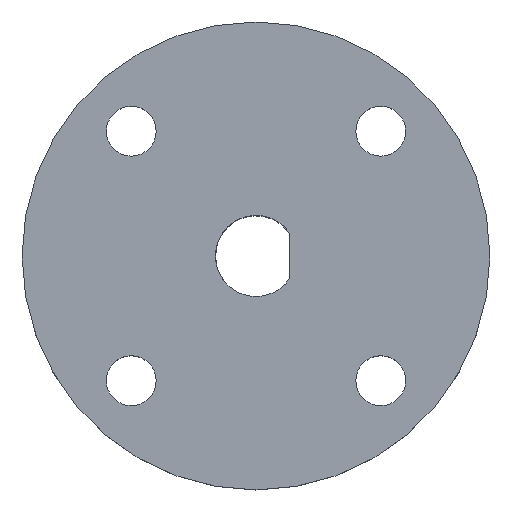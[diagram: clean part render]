
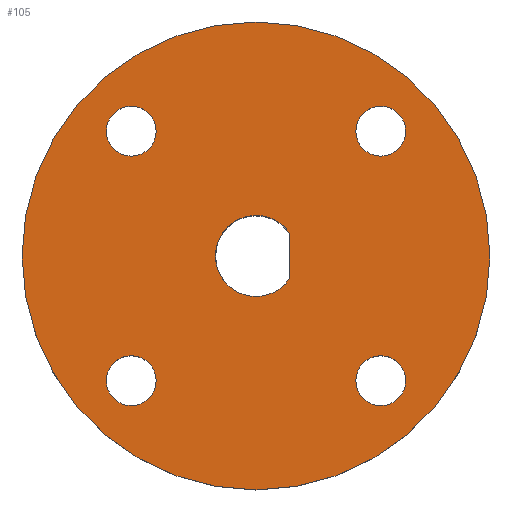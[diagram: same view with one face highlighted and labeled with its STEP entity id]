
A CAD part, top view. The second image highlights one B-rep face of the part: STEP entity #105.
In plain terms, the highlighted planar face has unit normal (0, 0, 1).
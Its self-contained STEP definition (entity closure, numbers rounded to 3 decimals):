
#21 = EDGE_CURVE('',#22,#22,#24,.T.);
#22 = VERTEX_POINT('',#23);
#23 = CARTESIAN_POINT('',(15.,0.,19.));
#24 = SURFACE_CURVE('',#25,(#30,#42),.PCURVE_S1.);
#25 = CIRCLE('',#26,15.);
#26 = AXIS2_PLACEMENT_3D('',#27,#28,#29);
#27 = CARTESIAN_POINT('',(0.,0.,19.));
#28 = DIRECTION('',(0.,0.,1.));
#29 = DIRECTION('',(1.,0.,0.));
#30 = PCURVE('',#31,#36);
#31 = CYLINDRICAL_SURFACE('',#32,15.);
#32 = AXIS2_PLACEMENT_3D('',#33,#34,#35);
#33 = CARTESIAN_POINT('',(0.,0.,15.));
#34 = DIRECTION('',(0.,0.,1.));
#35 = DIRECTION('',(1.,0.,0.));
#36 = DEFINITIONAL_REPRESENTATION('',(#37),#41);
#37 = LINE('',#38,#39);
#38 = CARTESIAN_POINT('',(0.,4.));
#39 = VECTOR('',#40,1.);
#40 = DIRECTION('',(1.,0.));
#41 = ( GEOMETRIC_REPRESENTATION_CONTEXT(2) 
PARAMETRIC_REPRESENTATION_CONTEXT() REPRESENTATION_CONTEXT('2D SPACE',''
  ) );
#42 = PCURVE('',#43,#48);
#43 = PLANE('',#44);
#44 = AXIS2_PLACEMENT_3D('',#45,#46,#47);
#45 = CARTESIAN_POINT('',(0.,0.,19.));
#46 = DIRECTION('',(0.,0.,1.));
#47 = DIRECTION('',(1.,0.,0.));
#48 = DEFINITIONAL_REPRESENTATION('',(#49),#53);
#49 = CIRCLE('',#50,15.);
#50 = AXIS2_PLACEMENT_2D('',#51,#52);
#51 = CARTESIAN_POINT('',(0.,0.));
#52 = DIRECTION('',(1.,0.));
#53 = ( GEOMETRIC_REPRESENTATION_CONTEXT(2) 
PARAMETRIC_REPRESENTATION_CONTEXT() REPRESENTATION_CONTEXT('2D SPACE',''
  ) );
#105 = ADVANCED_FACE('',(#106,#109,#140,#171,#228,#259),#43,.T.);
#106 = FACE_BOUND('',#107,.T.);
#107 = EDGE_LOOP('',(#108));
#108 = ORIENTED_EDGE('',*,*,#21,.T.);
#109 = FACE_BOUND('',#110,.T.);
#110 = EDGE_LOOP('',(#111));
#111 = ORIENTED_EDGE('',*,*,#112,.F.);
#112 = EDGE_CURVE('',#113,#113,#115,.T.);
#113 = VERTEX_POINT('',#114);
#114 = CARTESIAN_POINT('',(-6.4,-8.,19.));
#115 = SURFACE_CURVE('',#116,(#121,#128),.PCURVE_S1.);
#116 = CIRCLE('',#117,1.6);
#117 = AXIS2_PLACEMENT_3D('',#118,#119,#120);
#118 = CARTESIAN_POINT('',(-8.,-8.,19.));
#119 = DIRECTION('',(0.,0.,1.));
#120 = DIRECTION('',(1.,0.,-0.));
#121 = PCURVE('',#43,#122);
#122 = DEFINITIONAL_REPRESENTATION('',(#123),#127);
#123 = CIRCLE('',#124,1.6);
#124 = AXIS2_PLACEMENT_2D('',#125,#126);
#125 = CARTESIAN_POINT('',(-8.,-8.));
#126 = DIRECTION('',(1.,0.));
#127 = ( GEOMETRIC_REPRESENTATION_CONTEXT(2) 
PARAMETRIC_REPRESENTATION_CONTEXT() REPRESENTATION_CONTEXT('2D SPACE',''
  ) );
#128 = PCURVE('',#129,#134);
#129 = CYLINDRICAL_SURFACE('',#130,1.6);
#130 = AXIS2_PLACEMENT_3D('',#131,#132,#133);
#131 = CARTESIAN_POINT('',(-8.,-8.,13.));
#132 = DIRECTION('',(0.,0.,1.));
#133 = DIRECTION('',(1.,0.,0.));
#134 = DEFINITIONAL_REPRESENTATION('',(#135),#139);
#135 = LINE('',#136,#137);
#136 = CARTESIAN_POINT('',(0.,6.));
#137 = VECTOR('',#138,1.);
#138 = DIRECTION('',(1.,0.));
#139 = ( GEOMETRIC_REPRESENTATION_CONTEXT(2) 
PARAMETRIC_REPRESENTATION_CONTEXT() REPRESENTATION_CONTEXT('2D SPACE',''
  ) );
#140 = FACE_BOUND('',#141,.T.);
#141 = EDGE_LOOP('',(#142));
#142 = ORIENTED_EDGE('',*,*,#143,.F.);
#143 = EDGE_CURVE('',#144,#144,#146,.T.);
#144 = VERTEX_POINT('',#145);
#145 = CARTESIAN_POINT('',(9.6,-8.,19.));
#146 = SURFACE_CURVE('',#147,(#152,#159),.PCURVE_S1.);
#147 = CIRCLE('',#148,1.6);
#148 = AXIS2_PLACEMENT_3D('',#149,#150,#151);
#149 = CARTESIAN_POINT('',(8.,-8.,19.));
#150 = DIRECTION('',(0.,0.,1.));
#151 = DIRECTION('',(1.,0.,-0.));
#152 = PCURVE('',#43,#153);
#153 = DEFINITIONAL_REPRESENTATION('',(#154),#158);
#154 = CIRCLE('',#155,1.6);
#155 = AXIS2_PLACEMENT_2D('',#156,#157);
#156 = CARTESIAN_POINT('',(8.,-8.));
#157 = DIRECTION('',(1.,0.));
#158 = ( GEOMETRIC_REPRESENTATION_CONTEXT(2) 
PARAMETRIC_REPRESENTATION_CONTEXT() REPRESENTATION_CONTEXT('2D SPACE',''
  ) );
#159 = PCURVE('',#160,#165);
#160 = CYLINDRICAL_SURFACE('',#161,1.6);
#161 = AXIS2_PLACEMENT_3D('',#162,#163,#164);
#162 = CARTESIAN_POINT('',(8.,-8.,13.));
#163 = DIRECTION('',(0.,0.,1.));
#164 = DIRECTION('',(1.,0.,0.));
#165 = DEFINITIONAL_REPRESENTATION('',(#166),#170);
#166 = LINE('',#167,#168);
#167 = CARTESIAN_POINT('',(0.,6.));
#168 = VECTOR('',#169,1.);
#169 = DIRECTION('',(1.,0.));
#170 = ( GEOMETRIC_REPRESENTATION_CONTEXT(2) 
PARAMETRIC_REPRESENTATION_CONTEXT() REPRESENTATION_CONTEXT('2D SPACE',''
  ) );
#171 = FACE_BOUND('',#172,.T.);
#172 = EDGE_LOOP('',(#173,#204));
#173 = ORIENTED_EDGE('',*,*,#174,.F.);
#174 = EDGE_CURVE('',#175,#177,#179,.T.);
#175 = VERTEX_POINT('',#176);
#176 = CARTESIAN_POINT('',(2.15,1.462,19.));
#177 = VERTEX_POINT('',#178);
#178 = CARTESIAN_POINT('',(2.15,-1.462,19.));
#179 = SURFACE_CURVE('',#180,(#185,#192),.PCURVE_S1.);
#180 = CIRCLE('',#181,2.6);
#181 = AXIS2_PLACEMENT_3D('',#182,#183,#184);
#182 = CARTESIAN_POINT('',(0.,0.,19.));
#183 = DIRECTION('',(0.,0.,1.));
#184 = DIRECTION('',(1.,0.,-0.));
#185 = PCURVE('',#43,#186);
#186 = DEFINITIONAL_REPRESENTATION('',(#187),#191);
#187 = CIRCLE('',#188,2.6);
#188 = AXIS2_PLACEMENT_2D('',#189,#190);
#189 = CARTESIAN_POINT('',(0.,0.));
#190 = DIRECTION('',(1.,0.));
#191 = ( GEOMETRIC_REPRESENTATION_CONTEXT(2) 
PARAMETRIC_REPRESENTATION_CONTEXT() REPRESENTATION_CONTEXT('2D SPACE',''
  ) );
#192 = PCURVE('',#193,#198);
#193 = CYLINDRICAL_SURFACE('',#194,2.6);
#194 = AXIS2_PLACEMENT_3D('',#195,#196,#197);
#195 = CARTESIAN_POINT('',(0.,0.,-2.));
#196 = DIRECTION('',(0.,0.,1.));
#197 = DIRECTION('',(1.,0.,0.));
#198 = DEFINITIONAL_REPRESENTATION('',(#199),#203);
#199 = LINE('',#200,#201);
#200 = CARTESIAN_POINT('',(0.,21.));
#201 = VECTOR('',#202,1.);
#202 = DIRECTION('',(1.,0.));
#203 = ( GEOMETRIC_REPRESENTATION_CONTEXT(2) 
PARAMETRIC_REPRESENTATION_CONTEXT() REPRESENTATION_CONTEXT('2D SPACE',''
  ) );
#204 = ORIENTED_EDGE('',*,*,#205,.F.);
#205 = EDGE_CURVE('',#177,#175,#206,.T.);
#206 = SURFACE_CURVE('',#207,(#211,#217),.PCURVE_S1.);
#207 = LINE('',#208,#209);
#208 = CARTESIAN_POINT('',(2.15,-2.,19.));
#209 = VECTOR('',#210,1.);
#210 = DIRECTION('',(-0.,1.,0.));
#211 = PCURVE('',#43,#212);
#212 = DEFINITIONAL_REPRESENTATION('',(#213),#216);
#213 = B_SPLINE_CURVE_WITH_KNOTS('',1,(#214,#215),.UNSPECIFIED.,.F.,.F.,
  (2,2),(0.538,3.462),.PIECEWISE_BEZIER_KNOTS.);
#214 = CARTESIAN_POINT('',(2.15,-1.462));
#215 = CARTESIAN_POINT('',(2.15,1.462));
#216 = ( GEOMETRIC_REPRESENTATION_CONTEXT(2) 
PARAMETRIC_REPRESENTATION_CONTEXT() REPRESENTATION_CONTEXT('2D SPACE',''
  ) );
#217 = PCURVE('',#218,#223);
#218 = PLANE('',#219);
#219 = AXIS2_PLACEMENT_3D('',#220,#221,#222);
#220 = CARTESIAN_POINT('',(2.15,-4.,-3.));
#221 = DIRECTION('',(1.,0.,-0.));
#222 = DIRECTION('',(0.,0.,1.));
#223 = DEFINITIONAL_REPRESENTATION('',(#224),#227);
#224 = B_SPLINE_CURVE_WITH_KNOTS('',1,(#225,#226),.UNSPECIFIED.,.F.,.F.,
  (2,2),(0.538,3.462),.PIECEWISE_BEZIER_KNOTS.);
#225 = CARTESIAN_POINT('',(22.,-2.538));
#226 = CARTESIAN_POINT('',(22.,-5.462));
#227 = ( GEOMETRIC_REPRESENTATION_CONTEXT(2) 
PARAMETRIC_REPRESENTATION_CONTEXT() REPRESENTATION_CONTEXT('2D SPACE',''
  ) );
#228 = FACE_BOUND('',#229,.T.);
#229 = EDGE_LOOP('',(#230));
#230 = ORIENTED_EDGE('',*,*,#231,.F.);
#231 = EDGE_CURVE('',#232,#232,#234,.T.);
#232 = VERTEX_POINT('',#233);
#233 = CARTESIAN_POINT('',(-6.4,8.,19.));
#234 = SURFACE_CURVE('',#235,(#240,#247),.PCURVE_S1.);
#235 = CIRCLE('',#236,1.6);
#236 = AXIS2_PLACEMENT_3D('',#237,#238,#239);
#237 = CARTESIAN_POINT('',(-8.,8.,19.));
#238 = DIRECTION('',(0.,0.,1.));
#239 = DIRECTION('',(1.,0.,-0.));
#240 = PCURVE('',#43,#241);
#241 = DEFINITIONAL_REPRESENTATION('',(#242),#246);
#242 = CIRCLE('',#243,1.6);
#243 = AXIS2_PLACEMENT_2D('',#244,#245);
#244 = CARTESIAN_POINT('',(-8.,8.));
#245 = DIRECTION('',(1.,0.));
#246 = ( GEOMETRIC_REPRESENTATION_CONTEXT(2) 
PARAMETRIC_REPRESENTATION_CONTEXT() REPRESENTATION_CONTEXT('2D SPACE',''
  ) );
#247 = PCURVE('',#248,#253);
#248 = CYLINDRICAL_SURFACE('',#249,1.6);
#249 = AXIS2_PLACEMENT_3D('',#250,#251,#252);
#250 = CARTESIAN_POINT('',(-8.,8.,13.));
#251 = DIRECTION('',(0.,0.,1.));
#252 = DIRECTION('',(1.,0.,0.));
#253 = DEFINITIONAL_REPRESENTATION('',(#254),#258);
#254 = LINE('',#255,#256);
#255 = CARTESIAN_POINT('',(0.,6.));
#256 = VECTOR('',#257,1.);
#257 = DIRECTION('',(1.,0.));
#258 = ( GEOMETRIC_REPRESENTATION_CONTEXT(2) 
PARAMETRIC_REPRESENTATION_CONTEXT() REPRESENTATION_CONTEXT('2D SPACE',''
  ) );
#259 = FACE_BOUND('',#260,.T.);
#260 = EDGE_LOOP('',(#261));
#261 = ORIENTED_EDGE('',*,*,#262,.F.);
#262 = EDGE_CURVE('',#263,#263,#265,.T.);
#263 = VERTEX_POINT('',#264);
#264 = CARTESIAN_POINT('',(9.6,8.,19.));
#265 = SURFACE_CURVE('',#266,(#271,#278),.PCURVE_S1.);
#266 = CIRCLE('',#267,1.6);
#267 = AXIS2_PLACEMENT_3D('',#268,#269,#270);
#268 = CARTESIAN_POINT('',(8.,8.,19.));
#269 = DIRECTION('',(0.,0.,1.));
#270 = DIRECTION('',(1.,0.,-0.));
#271 = PCURVE('',#43,#272);
#272 = DEFINITIONAL_REPRESENTATION('',(#273),#277);
#273 = CIRCLE('',#274,1.6);
#274 = AXIS2_PLACEMENT_2D('',#275,#276);
#275 = CARTESIAN_POINT('',(8.,8.));
#276 = DIRECTION('',(1.,0.));
#277 = ( GEOMETRIC_REPRESENTATION_CONTEXT(2) 
PARAMETRIC_REPRESENTATION_CONTEXT() REPRESENTATION_CONTEXT('2D SPACE',''
  ) );
#278 = PCURVE('',#279,#284);
#279 = CYLINDRICAL_SURFACE('',#280,1.6);
#280 = AXIS2_PLACEMENT_3D('',#281,#282,#283);
#281 = CARTESIAN_POINT('',(8.,8.,13.));
#282 = DIRECTION('',(0.,0.,1.));
#283 = DIRECTION('',(1.,0.,0.));
#284 = DEFINITIONAL_REPRESENTATION('',(#285),#289);
#285 = LINE('',#286,#287);
#286 = CARTESIAN_POINT('',(0.,6.));
#287 = VECTOR('',#288,1.);
#288 = DIRECTION('',(1.,0.));
#289 = ( GEOMETRIC_REPRESENTATION_CONTEXT(2) 
PARAMETRIC_REPRESENTATION_CONTEXT() REPRESENTATION_CONTEXT('2D SPACE',''
  ) );
